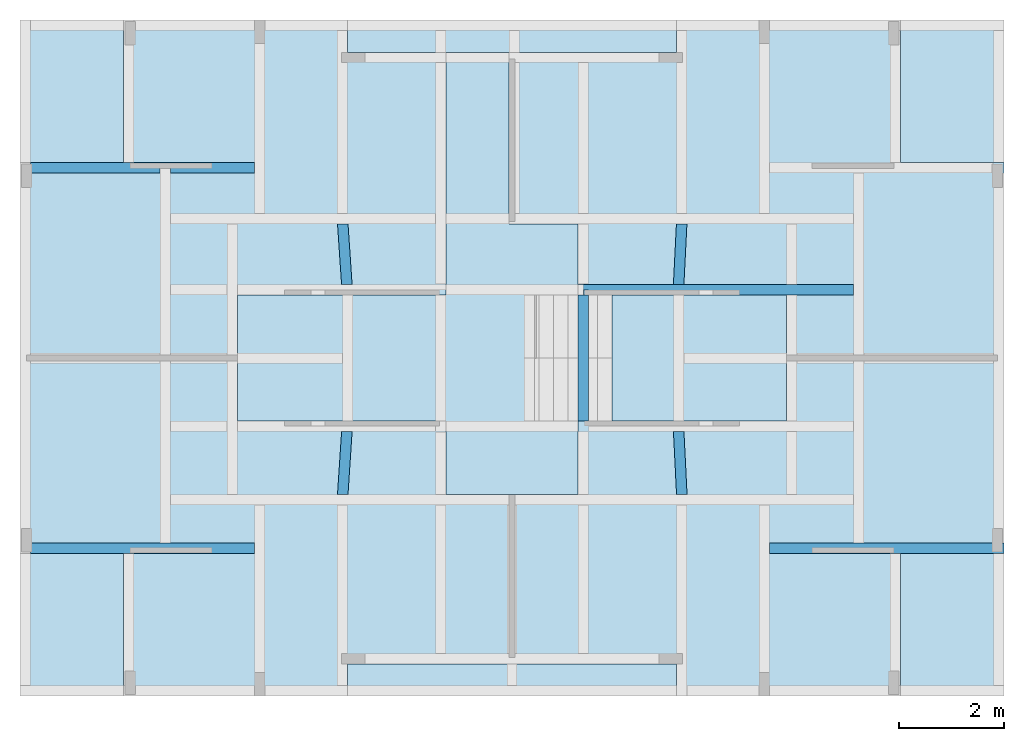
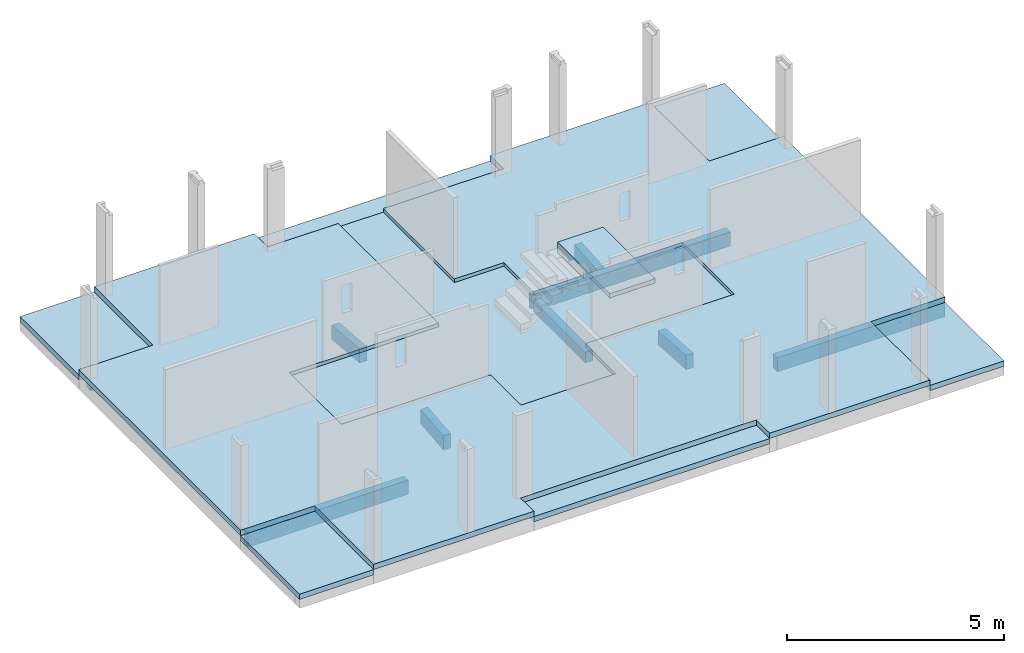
# One storey, part 4 of 7: 9 beams, 9 slabs, 1 element without a shape of its own.
"""IFC4 building model written with IfcOpenShell, lengths in metres."""

from ifc_helpers import new_model, entity, si_unit, converted_unit, derived_unit, direction, frame, frame_2d, origin, place, context, subcontext, project, spatial, indexed_curve, rectangle, outline, extrude, polygons, source, transform, mapped, material, type_object, type_shapes, element, aggregate, save


model = new_model("IFC4")

# Units and contexts
model_context = context("Model", 3, precision=1e-05, world=origin(), true_north=direction((6.123031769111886e-17, 1.0)))
body_context = subcontext(model_context, "Body", "Model", "MODEL_VIEW")
ifc_project = project(units=[si_unit("LENGTHUNIT", "METRE"), si_unit("AREAUNIT", "SQUARE_METRE"), si_unit("VOLUMEUNIT", "CUBIC_METRE"), converted_unit("PLANEANGLEUNIT", "DEGREE", entity("IfcRatioMeasure", 0.017453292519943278), si_unit("PLANEANGLEUNIT", "RADIAN"), dimensions=[0, 0, 0, 0, 0, 0, 0]), si_unit("MASSUNIT", "GRAM", prefix="KILO"), derived_unit("MASSDENSITYUNIT", [(si_unit("MASSUNIT", "GRAM", prefix="KILO"), 1), (si_unit("LENGTHUNIT", "METRE"), -3)]), derived_unit("IONCONCENTRATIONUNIT", [(si_unit("MASSUNIT", "GRAM", prefix="KILO"), 1), (si_unit("LENGTHUNIT", "METRE"), -3)]), derived_unit("MOMENTOFINERTIAUNIT", [(si_unit("LENGTHUNIT", "METRE"), 4)]), si_unit("TIMEUNIT", "SECOND"), si_unit("FREQUENCYUNIT", "HERTZ"), si_unit("THERMODYNAMICTEMPERATUREUNIT", "DEGREE_CELSIUS"), derived_unit("THERMALTRANSMITTANCEUNIT", [(si_unit("MASSUNIT", "GRAM", prefix="KILO"), 1), (si_unit("THERMODYNAMICTEMPERATUREUNIT", "KELVIN"), -1), (si_unit("TIMEUNIT", "SECOND"), -3)]), derived_unit("THERMALCONDUCTANCEUNIT", [(si_unit("MASSUNIT", "GRAM", prefix="KILO"), 1), (si_unit("THERMODYNAMICTEMPERATUREUNIT", "KELVIN"), -1), (si_unit("TIMEUNIT", "SECOND"), -3), (si_unit("LENGTHUNIT", "METRE"), 1)]), derived_unit("VOLUMETRICFLOWRATEUNIT", [(si_unit("LENGTHUNIT", "METRE"), 3), (si_unit("TIMEUNIT", "SECOND"), -1)]), derived_unit("MASSFLOWRATEUNIT", [(si_unit("MASSUNIT", "GRAM", prefix="KILO"), 1), (si_unit("TIMEUNIT", "SECOND"), -1)]), derived_unit("ROTATIONALFREQUENCYUNIT", [(si_unit("TIMEUNIT", "SECOND"), -1)]), si_unit("ELECTRICCURRENTUNIT", "AMPERE"), si_unit("ELECTRICVOLTAGEUNIT", "VOLT"), si_unit("POWERUNIT", "WATT"), si_unit("FORCEUNIT", "NEWTON", prefix="KILO"), si_unit("ILLUMINANCEUNIT", "LUX"), si_unit("LUMINOUSFLUXUNIT", "LUMEN"), si_unit("LUMINOUSINTENSITYUNIT", "CANDELA"), derived_unit("USERDEFINED", [(si_unit("MASSUNIT", "GRAM", prefix="KILO"), -1), (si_unit("LENGTHUNIT", "METRE"), -2), (si_unit("TIMEUNIT", "SECOND"), 3), (si_unit("LUMINOUSFLUXUNIT", "LUMEN"), 1)]), derived_unit("USERDEFINED", [(si_unit("MASSUNIT", "GRAM", prefix="KILO"), 1), (si_unit("TIMEUNIT", "SECOND"), -3), (si_unit("LENGTHUNIT", "METRE"), 3), (si_unit("ELECTRICCURRENTUNIT", "AMPERE"), -2)]), derived_unit("SOUNDPOWERUNIT", [(si_unit("MASSUNIT", "GRAM", prefix="KILO"), 1), (si_unit("TIMEUNIT", "SECOND"), -3), (si_unit("LENGTHUNIT", "METRE"), 2)]), derived_unit("SOUNDPRESSUREUNIT", [(si_unit("MASSUNIT", "GRAM", prefix="KILO"), 1), (si_unit("LENGTHUNIT", "METRE"), -1), (si_unit("TIMEUNIT", "SECOND"), -2)]), derived_unit("LINEARVELOCITYUNIT", [(si_unit("LENGTHUNIT", "METRE"), 1), (si_unit("TIMEUNIT", "SECOND"), -1)]), si_unit("PRESSUREUNIT", "PASCAL"), derived_unit("USERDEFINED", [(si_unit("MASSUNIT", "GRAM", prefix="KILO"), 1), (si_unit("LENGTHUNIT", "METRE"), -2), (si_unit("TIMEUNIT", "SECOND"), -2)]), derived_unit("LINEARFORCEUNIT", [(si_unit("MASSUNIT", "GRAM", prefix="KILO"), 1), (si_unit("TIMEUNIT", "SECOND"), -2)]), derived_unit("PLANARFORCEUNIT", [(si_unit("MASSUNIT", "GRAM", prefix="KILO"), 1), (si_unit("LENGTHUNIT", "METRE"), -1), (si_unit("TIMEUNIT", "SECOND"), -2)]), derived_unit("SPECIFICHEATCAPACITYUNIT", [(si_unit("THERMODYNAMICTEMPERATUREUNIT", "KELVIN"), -1), (si_unit("LENGTHUNIT", "METRE"), 2), (si_unit("TIMEUNIT", "SECOND"), -2)]), derived_unit("HEATINGVALUEUNIT", [(si_unit("LENGTHUNIT", "METRE"), 2), (si_unit("TIMEUNIT", "SECOND"), -2)]), derived_unit("VAPORPERMEABILITYUNIT", [(si_unit("LENGTHUNIT", "METRE"), -1), (si_unit("TIMEUNIT", "SECOND"), 1)]), derived_unit("DYNAMICVISCOSITYUNIT", [(si_unit("MASSUNIT", "GRAM", prefix="KILO"), 1), (si_unit("TIMEUNIT", "SECOND"), -1), (si_unit("LENGTHUNIT", "METRE"), -1)]), derived_unit("THERMALEXPANSIONCOEFFICIENTUNIT", [(si_unit("THERMODYNAMICTEMPERATUREUNIT", "KELVIN"), -1)]), derived_unit("MODULUSOFELASTICITYUNIT", [(si_unit("MASSUNIT", "GRAM", prefix="KILO"), 1), (si_unit("LENGTHUNIT", "METRE"), -1), (si_unit("TIMEUNIT", "SECOND"), -2)]), derived_unit("ISOTHERMALMOISTURECAPACITYUNIT", [(si_unit("LENGTHUNIT", "METRE"), 3), (si_unit("MASSUNIT", "GRAM", prefix="KILO"), -1)]), derived_unit("MOISTUREDIFFUSIVITYUNIT", [(si_unit("TIMEUNIT", "SECOND"), -1), (si_unit("LENGTHUNIT", "METRE"), 2)])], contexts=[model_context])

# Site, building, storey
site_placement = place(None, origin())
site = spatial("IfcSite", under=ifc_project, at=site_placement, Name="Default", CompositionType="ELEMENT")
building_placement = place(site_placement, origin())
building = spatial("IfcBuilding", under=site, at=building_placement, Name="Las nubes", CompositionType="ELEMENT")
storey_placement = place(building_placement, origin())
storey = spatial("IfcBuildingStorey", under=building, at=storey_placement, Name="CIMENTACIÓN", CompositionType="ELEMENT", Elevation=-3.522347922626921e-13)

# Beams
ifc_material_1 = material(Name="Concrete, Cast In Situ", Category="Materials")
beam_type_1 = type_object("IfcBeamType", Name="M_Concrete-Rectangular Beam:(0.20x0.55)", PredefinedType="BEAM", material=ifc_material_1)
shared_shape_1 = source(origin(), body_context, "Body", "Tessellation", [
    polygons([(1.7749999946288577, 8.662937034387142e-15, 0.3999999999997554), (1.7749999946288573, 8.662937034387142e-15, 0.25000000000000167), (8.459899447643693e-17, 1.5160139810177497e-14, 0.25000000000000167), (1.8611778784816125e-16, 1.5160139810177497e-14, 0.0), (1.7749999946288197, 8.662937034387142e-15, 0.0), (1.9749999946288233, 8.662937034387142e-15, 0.0), (4.267499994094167, 0.0, 0.0), (4.267499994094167, 0.0, 0.39999999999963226), (1.9749999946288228, 8.662937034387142e-15, 0.39999999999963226), (4.267499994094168, 0.20000000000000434, 0.0), (5.414335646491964e-16, 0.2000000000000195, 0.0), (2.4675010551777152, 0.20000000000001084, 0.0), (2.6675010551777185, 0.20000000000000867, 0.0), (4.267499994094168, 0.20000000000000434, 0.39999999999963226), (5.414335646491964e-16, 0.2000000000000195, 0.39999999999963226), (2.467501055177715, 0.20000000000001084, 0.39999999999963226), (2.667501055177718, 0.20000000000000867, 0.39999999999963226), (1.7749999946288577, 0.0002363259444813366, 0.25000000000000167), (2.537969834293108e-16, 0.0002363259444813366, 0.25000000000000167), (1.7749999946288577, 0.0002363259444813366, 0.3999999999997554), (3.383959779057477e-16, 0.0002363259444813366, 0.39999999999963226)], [[[1, 2, 3, 4, 5, 6, 7, 8, 9]], [[10, 7, 6, 5, 4, 11, 12, 13]], [[14, 10, 13, 12, 11, 15, 16, 17]], [[7, 10, 14, 8]], [[2, 18, 19, 3]], [[20, 18, 2, 1]], [[18, 20, 21, 19]], [[1, 9, 8, 14, 17, 16, 15, 21, 20]], [[4, 3, 19, 21, 15, 11]]], closed=True),
])
type_shapes(beam_type_1, [shared_shape_1])
beam_1_placement = place(storey_placement, frame((0.14250000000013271, -10.155000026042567, -0.5500000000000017)))
element("IfcBeam", 1, at=beam_1_placement, inside=storey, type_object=beam_type_1, material=ifc_material_1, Name="M_Concrete-Rectangular Beam:(0.20x0.55)", ObjectType="M_Concrete-Rectangular Beam:(0.20x0.55)", PredefinedType="BEAM", context=body_context, shape_type="MappedRepresentation", body=[
    mapped(shared_shape_1, transform((0.0, 0.0, 0.0), scale=1.0)),
])
beam_type_2 = type_object("IfcBeamType", Name="M_Concrete-Rectangular Beam:(0.20x0.55)", PredefinedType="BEAM", material=ifc_material_1)
shared_shape_2 = source(origin(), body_context, "Body", "Tessellation", [
    polygons([(2.467501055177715, 5.95576921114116e-15, 0.0), (2.4675010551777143, 5.95576921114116e-15, 0.39999999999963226), (1.8611778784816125e-16, 1.3535839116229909e-14, 0.39999999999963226), (0.0, 1.3535839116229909e-14, 0.0), (2.6675010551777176, 4.872902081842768e-15, 0.0), (2.667501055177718, 0.1850000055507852, 0.0), (2.467501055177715, 0.1850000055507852, 0.0), (3.553157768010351e-16, 0.2000000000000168, 0.0), (1.7749999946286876, 0.2000000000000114, 0.0), (1.9749999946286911, 0.20000000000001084, 0.0), (4.267499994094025, 0.20000000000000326, 0.0), (4.267499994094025, 0.0, 0.0), (4.267499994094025, 0.20000000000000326, 0.39999999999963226), (5.414335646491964e-16, 0.2000000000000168, 0.39999999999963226), (1.7749999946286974, 0.2000000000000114, 0.39999999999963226), (1.9749999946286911, 0.20000000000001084, 0.39999999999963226), (2.6675010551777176, 4.872902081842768e-15, 0.39999999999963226), (2.667501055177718, 0.1850000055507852, 0.39999999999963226), (2.467501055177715, 0.1850000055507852, 0.39999999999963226), (4.267499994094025, 0.0, 0.39999999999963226)], [[[1, 2, 3, 4]], [[5, 6, 7, 1, 4, 8, 9, 10, 11, 12]], [[13, 11, 10, 9, 8, 14, 15, 16]], [[6, 5, 17, 18]], [[1, 7, 19, 2]], [[17, 5, 12, 20]], [[7, 6, 18, 19]], [[18, 17, 20, 13, 16, 15, 14, 3, 2, 19]], [[12, 11, 13, 20]], [[4, 3, 14, 8]]], closed=True),
])
type_shapes(beam_type_2, [shared_shape_2])
beam_2_placement = place(storey_placement, frame((0.14250000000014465, -2.895000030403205, -0.5500000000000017)))
element("IfcBeam", 2, at=beam_2_placement, inside=storey, type_object=beam_type_2, material=ifc_material_1, Name="M_Concrete-Rectangular Beam:(0.20x0.55)", ObjectType="M_Concrete-Rectangular Beam:(0.20x0.55)", PredefinedType="BEAM", context=body_context, shape_type="MappedRepresentation", body=[
    mapped(shared_shape_2, transform((0.0, 0.0, 0.0), scale=1.0)),
])
beam_type_3 = type_object("IfcBeamType", Name="M_Concrete-Rectangular Beam:(0.20x0.55)", PredefinedType="BEAM", material=ifc_material_1)
shared_shape_3 = source(origin(), body_context, "Body", "Tessellation", [
    polygons([(-2.1657342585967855e-15, 0.20000000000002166, 0.0), (-2.1657342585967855e-15, 0.20000000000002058, 0.30000000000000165), (-2.1657342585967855e-15, 0.20000000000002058, 0.39999999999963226), (1.8170000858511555, 0.20000000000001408, 0.39999999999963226), (2.017249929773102, 0.20000000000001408, 0.39999999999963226), (3.975000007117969, 0.2000000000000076, 0.39999999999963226), (4.175000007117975, 0.2000000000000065, 0.39999999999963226), (5.25249894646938, 0.20000000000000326, 0.39999999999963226), (5.25249894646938, 0.20000000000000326, 0.0), (4.175000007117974, 0.2000000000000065, 0.0), (3.975000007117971, 0.2000000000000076, 0.0), (2.017249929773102, 0.20000000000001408, 0.0), (1.8170000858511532, 0.20000000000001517, 0.0), (5.252498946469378, 0.0, 0.0), (4.175000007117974, 3.2486013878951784e-15, 0.0), (3.975000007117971, 4.331468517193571e-15, 0.0), (2.0175000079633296, 1.0828671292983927e-14, 0.0), (1.8175000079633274, 1.0828671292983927e-14, 0.0), (0.20000000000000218, 1.624300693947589e-14, 0.0), (0.20000000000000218, 0.10000000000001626, 0.0), (0.09999999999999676, 0.10000000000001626, 0.0), (-2.1657342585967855e-15, 0.10000000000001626, 0.0), (5.252498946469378, 0.0, 0.39999999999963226), (4.175000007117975, 3.2486013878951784e-15, 0.39999999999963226), (3.975000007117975, 4.331468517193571e-15, 0.39999999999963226), (0.20000000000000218, 1.624300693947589e-14, 0.39999999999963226), (0.20000000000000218, 1.624300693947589e-14, 0.30000000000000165), (-2.1657342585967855e-15, 0.10000000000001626, 0.39999999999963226), (0.09999999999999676, 0.10000000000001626, 0.39999999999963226), (0.20000000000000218, 0.10000000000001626, 0.39999999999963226)], [[[1, 2, 3, 4, 5, 6, 7, 8, 9, 10, 11, 12, 13]], [[1, 13, 12, 11, 10, 9, 14, 15, 16, 17, 18, 19, 20, 21, 22]], [[23, 24, 25, 26, 27, 19, 18, 17, 16, 15, 14]], [[8, 7, 6, 5, 4, 3, 28, 29, 30, 26, 25, 24, 23]], [[2, 1, 22, 28, 3]], [[9, 8, 23, 14]], [[30, 20, 19, 27, 26]], [[20, 30, 29, 28, 22, 21]]], closed=True),
])
type_shapes(beam_type_3, [shared_shape_3])
beam_3_placement = place(storey_placement, frame((10.582499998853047, -5.225000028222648, -0.5500000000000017)))
element("IfcBeam", 3, at=beam_3_placement, inside=storey, type_object=beam_type_3, material=ifc_material_1, Name="M_Concrete-Rectangular Beam:(0.20x0.55)", ObjectType="M_Concrete-Rectangular Beam:(0.20x0.55)", PredefinedType="BEAM", context=body_context, shape_type="MappedRepresentation", body=[
    mapped(shared_shape_3, transform((0.0, 0.0, 0.0), scale=1.0)),
])
beam_type_4 = type_object("IfcBeamType", Name="M_Concrete-Rectangular Beam:(0.20x0.55)", PredefinedType="BEAM", material=ifc_material_1)
shared_shape_4 = source(origin(), body_context, "Body", "Tessellation", [
    polygons([(4.467499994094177, 0.20000000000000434, 0.39999999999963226), (4.467499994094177, 0.20000000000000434, 0.0), (4.267499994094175, 0.20000000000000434, 0.0), (1.7999989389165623, 0.20000000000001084, 0.0), (1.599998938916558, 0.200000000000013, 0.0), (2.1657342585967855e-15, 0.2000000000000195, 0.0), (2.1657342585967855e-15, 0.2000000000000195, 0.39999999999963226), (1.599998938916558, 0.20000000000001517, 0.39999999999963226), (1.7999989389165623, 0.200000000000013, 0.39999999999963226), (4.267499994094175, 0.2000000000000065, 0.39999999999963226), (4.467499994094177, 2.1657342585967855e-15, 0.0), (4.267499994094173, 2.1657342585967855e-15, 0.0), (2.492499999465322, 6.497202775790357e-15, 0.0), (2.292499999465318, 8.662937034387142e-15, 0.0), (2.1657342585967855e-15, 1.5160139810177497e-14, 0.0), (4.467499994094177, 0.0, 0.25000000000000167), (4.267499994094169, 2.1657342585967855e-15, 0.25000000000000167), (2.4924999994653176, 6.497202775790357e-15, 0.25000000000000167), (2.4924999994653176, 6.497202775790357e-15, 0.3999999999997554), (2.292499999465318, 8.662937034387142e-15, 0.39999999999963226), (2.1657342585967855e-15, 1.5160139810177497e-14, 0.39999999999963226), (4.467499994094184, 0.00023632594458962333, 0.25000000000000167), (2.4924999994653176, 0.00023632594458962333, 0.25000000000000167), (2.4924999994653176, 0.00023632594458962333, 0.3999999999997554), (4.467499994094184, 0.00023632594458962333, 0.3999999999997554)], [[[1, 2, 3, 4, 5, 6, 7, 8, 9, 10]], [[2, 11, 12, 13, 14, 15, 6, 5, 4, 3]], [[16, 17, 18, 19, 20, 21, 15, 14, 13, 12, 11]], [[22, 23, 18, 17, 16]], [[23, 24, 19, 18]], [[23, 22, 25, 24]], [[19, 24, 25, 1, 10, 9, 8, 7, 21, 20]], [[7, 6, 15, 21]], [[11, 2, 1, 25, 22, 16]]], closed=True),
])
type_shapes(beam_type_4, [shared_shape_4])
beam_4_placement = place(storey_placement, frame((14.23500000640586, -10.155000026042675, -0.5500000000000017)))
element("IfcBeam", 4, at=beam_4_placement, inside=storey, type_object=beam_type_4, material=ifc_material_1, Name="M_Concrete-Rectangular Beam:(0.20x0.55)", ObjectType="M_Concrete-Rectangular Beam:(0.20x0.55)", PredefinedType="BEAM", context=body_context, shape_type="MappedRepresentation", body=[
    mapped(shared_shape_4, transform((0.0, 0.0, 0.0), scale=1.0)),
])
beam_type_5 = type_object("IfcBeamType", Name="M_Concrete-Rectangular Beam:(0.20x0.55)", PredefinedType="BEAM", material=ifc_material_1)
shared_shape_5 = source(origin(), body_context, "Body", "Tessellation", [
    polygons([(0.20024984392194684, 1.0828671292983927e-15, 1.6919798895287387e-17), (0.20024984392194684, 0.0, -0.39999999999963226), (0.2581248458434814, 1.1575000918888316, -0.39999999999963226), (0.2581248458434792, 1.1575000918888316, 3.383959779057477e-17), (-2.1657342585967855e-15, 1.0828671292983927e-15, -0.39999999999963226), (0.057875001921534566, 1.1575000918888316, -0.39999999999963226), (-2.1657342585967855e-15, 1.0828671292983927e-15, 3.383959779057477e-17), (0.0578750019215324, 1.1575000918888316, 3.383959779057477e-17)], [[[1, 2, 3, 4]], [[2, 5, 6, 3]], [[5, 7, 8, 6]], [[5, 2, 1, 7]], [[7, 1, 4, 8]], [[4, 3, 6, 8]]], closed=True),
])
type_shapes(beam_type_5, [shared_shape_5])
beam_5_placement = place(storey_placement, frame((12.399500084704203, -5.025000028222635, -0.1500000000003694)))
element("IfcBeam", 5, at=beam_5_placement, inside=storey, type_object=beam_type_5, material=ifc_material_1, Name="M_Concrete-Rectangular Beam:(0.20x0.55)", ObjectType="M_Concrete-Rectangular Beam:(0.20x0.55)", PredefinedType="BEAM", context=body_context, shape_type="MappedRepresentation", body=[
    mapped(shared_shape_5, transform((0.0, 0.0, 0.0), scale=1.0)),
])
beam_type_6 = type_object("IfcBeamType", Name="M_Concrete-Rectangular Beam:(0.20x0.55)", PredefinedType="BEAM", material=ifc_material_1)
shared_shape_6 = source(origin(), body_context, "Body", "Tessellation", [
    polygons([(0.2595324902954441, 6.497202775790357e-15, 0.39999999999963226), (0.2595324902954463, 3.2486013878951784e-15, 0.0), (0.20024395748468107, 1.199999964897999, 0.0), (0.20024395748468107, 1.1999999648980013, 0.39999999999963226), (0.0592885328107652, 3.2486013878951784e-15, 0.0), (2.1657342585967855e-15, 1.1999999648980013, 0.0), (0.0592885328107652, 7.580069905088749e-15, 0.39999999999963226), (2.1657342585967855e-15, 1.1999999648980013, 0.39999999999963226)], [[[1, 2, 3, 4]], [[2, 5, 6, 3]], [[5, 7, 8, 6]], [[5, 2, 1, 7]], [[7, 1, 4, 8]], [[4, 3, 6, 8]]], closed=True),
])
type_shapes(beam_type_6, [shared_shape_6])
beam_6_placement = place(storey_placement, frame((12.400248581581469, -9.024999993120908, -0.5500000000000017)))
element("IfcBeam", 6, at=beam_6_placement, inside=storey, type_object=beam_type_6, material=ifc_material_1, Name="M_Concrete-Rectangular Beam:(0.20x0.55)", ObjectType="M_Concrete-Rectangular Beam:(0.20x0.55)", PredefinedType="BEAM", context=body_context, shape_type="MappedRepresentation", body=[
    mapped(shared_shape_6, transform((0.0, 0.0, 0.0), scale=1.0)),
])
beam_type_7 = type_object("IfcBeamType", Name="M_Concrete-Rectangular Beam:(0.20x0.55)", PredefinedType="BEAM", material=ifc_material_1)
shared_shape_7 = source(origin(), body_context, "Body", "Tessellation", [
    polygons([(1.0828671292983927e-15, 1.1575000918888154, 0.39999999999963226), (1.0828671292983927e-15, 1.1575000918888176, 0.0), (0.07803371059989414, 1.0828671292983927e-15, 0.0), (0.07803371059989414, 1.0828671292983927e-15, 0.39999999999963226), (0.200453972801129, 1.1575000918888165, 0.0), (0.278487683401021, 1.0828671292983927e-15, 0.0), (0.200453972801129, 1.1575000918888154, 0.39999999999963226), (0.278487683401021, 1.0828671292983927e-15, 0.39999999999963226)], [[[1, 2, 3, 4]], [[2, 5, 6, 3]], [[5, 7, 8, 6]], [[5, 2, 1, 7]], [[7, 1, 4, 8]], [[4, 3, 6, 8]]], closed=True),
])
type_shapes(beam_type_7, [shared_shape_7])
beam_7_placement = place(storey_placement, frame((5.995529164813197, -5.025000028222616, -0.5500000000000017)))
element("IfcBeam", 7, at=beam_7_placement, inside=storey, type_object=beam_type_7, material=ifc_material_1, Name="M_Concrete-Rectangular Beam:(0.20x0.55)", ObjectType="M_Concrete-Rectangular Beam:(0.20x0.55)", PredefinedType="BEAM", context=body_context, shape_type="MappedRepresentation", body=[
    mapped(shared_shape_7, transform((0.0, 0.0, 0.0), scale=1.0)),
])
beam_type_8 = type_object("IfcBeamType", Name="M_Concrete-Rectangular Beam:(0.20x0.55)", PredefinedType="BEAM", material=ifc_material_1)
shared_shape_8 = source(origin(), body_context, "Body", "Tessellation", [
    polygons([(0.07875000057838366, 1.1999999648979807, 6.767919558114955e-17), (1.0828671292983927e-15, 0.0, 0.0), (1.0828671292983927e-15, 0.0, 0.39999999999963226), (0.07875000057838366, 1.1999999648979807, 0.39999999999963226), (0.20043020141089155, 0.0, 0.0), (0.2791802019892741, 1.1999999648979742, 0.0), (0.279180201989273, 1.1999999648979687, 0.39999999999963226), (0.20043020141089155, 0.0, 0.39999999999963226)], [[[1, 2, 3, 4]], [[5, 2, 1, 6]], [[5, 6, 7, 8]], [[2, 5, 8, 3]], [[6, 1, 4, 7]], [[4, 3, 8, 7]]], closed=True),
])
type_shapes(beam_type_8, [shared_shape_8])
beam_8_placement = place(storey_placement, frame((5.995194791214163, -9.024999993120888, -0.5500000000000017)))
element("IfcBeam", 8, at=beam_8_placement, inside=storey, type_object=beam_type_8, material=ifc_material_1, Name="M_Concrete-Rectangular Beam:(0.20x0.55)", ObjectType="M_Concrete-Rectangular Beam:(0.20x0.55)", PredefinedType="BEAM", context=body_context, shape_type="MappedRepresentation", body=[
    mapped(shared_shape_8, transform((0.0, 0.0, 0.0), scale=1.0)),
])
beam_type_9 = type_object("IfcBeamType", Name="M_Concrete-Rectangular Beam:(0.20x0.45)", PredefinedType="BEAM", material=ifc_material_1)
shared_shape_9 = source(origin(), body_context, "Body", "Tessellation", [
    polygons([(0.2000000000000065, 2.4000000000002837, 0.30000000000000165), (0.20000000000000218, 1.0828671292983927e-15, 0.30000000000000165), (0.2, 1.0828671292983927e-15, 0.0), (0.20000000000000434, 2.4000000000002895, 0.0), (0.20000000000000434, 2.500000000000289, 0.0), (0.2000000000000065, 2.500000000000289, 0.39999999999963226), (0.2000000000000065, 2.4000000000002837, 0.39999999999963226), (2.1657342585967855e-15, 2.4000000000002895, 0.0), (0.10000000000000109, 2.4000000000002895, 0.0), (0.10000000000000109, 2.500000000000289, 0.0), (-2.1657342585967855e-15, 3.2486013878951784e-15, 0.0), (2.1657342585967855e-15, 2.4000000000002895, 0.30000000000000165), (-2.1657342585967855e-15, 3.2486013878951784e-15, 0.30000000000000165), (0.10000000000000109, 2.500000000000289, 0.39999999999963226), (0.10000000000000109, 2.400000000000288, 0.30000000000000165), (0.10000000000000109, 2.4000000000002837, 0.39999999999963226)], [[[1, 2, 3, 4, 5, 6, 7]], [[8, 9, 10, 5, 4, 3, 11]], [[12, 8, 11, 13]], [[5, 10, 14, 6]], [[9, 8, 12, 15]], [[2, 1, 15, 12, 13]], [[15, 1, 7, 16]], [[7, 6, 14, 16]], [[3, 2, 13, 11]], [[10, 9, 15, 16, 14]]], closed=True),
])
type_shapes(beam_type_9, [shared_shape_9])
beam_9_placement = place(storey_placement, frame((10.582499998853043, -7.62500002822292, -0.5500000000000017)))
element("IfcBeam", 9, at=beam_9_placement, inside=storey, type_object=beam_type_9, material=ifc_material_1, Name="M_Concrete-Rectangular Beam:(0.20x0.45)", ObjectType="M_Concrete-Rectangular Beam:(0.20x0.45)", PredefinedType="BEAM", context=body_context, shape_type="MappedRepresentation", body=[
    mapped(shared_shape_9, transform((0.0, 0.0, 0.0), scale=1.0)),
])

# Slabs
ifc_material_2 = material(Name="Concrete - Cast-in-Place Concrete - 28 MPa SLAB", Category="Materials")
slab_type_1 = type_object("IfcSlabType", Name="Floor:PLACA ESTRUCTURAL 0.15", PredefinedType="FLOOR", material=ifc_material_2)
slab_1_placement = place(storey_placement, origin())
element("IfcSlab", 10, at=slab_1_placement, inside=storey, type_object=slab_type_1, material=ifc_material_2, Name="Floor:PLACA ESTRUCTURAL 0.15", ObjectType="Floor:PLACA ESTRUCTURAL 0.15", PredefinedType="FLOOR", context=body_context, shape_type="SweptSolid", body=[
    extrude(outline(indexed_curve([(-2.0267857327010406, -5.226428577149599), (0.3732142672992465, -5.226428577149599), (0.37321426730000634, -1.2514285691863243), (5.003214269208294, -1.2514285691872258), (5.003214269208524, -0.051428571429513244), (1.730714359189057, -0.05142857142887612), (1.730714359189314, 1.2685714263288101), (0.37321426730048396, 1.2685714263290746), (0.3732142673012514, 5.243571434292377), (-2.026785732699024, 5.243571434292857), (-2.026785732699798, 1.2685714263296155), (-3.426785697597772, 1.268571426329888), (-3.4267856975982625, -1.2514285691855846), (-2.0267857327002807, -1.251428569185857), (-2.0267857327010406, -5.226428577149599)], self_intersect=False)), frame((9.313928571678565, -5.598214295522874, -0.09999999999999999), z_axis=(0.0, 0.0, -1.0), x_axis=(0.0, 1.0, 0.0)), (0.0, 0.0, 1.0), 0.14999999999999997),
])
slab_2_placement = place(storey_placement, frame((-0.05749999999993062, -12.87000003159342, -0.3)))
element("IfcSlab", 11, at=slab_2_placement, inside=storey, type_object=slab_type_1, material=ifc_material_2, Name="Floor:PLACA ESTRUCTURAL 0.15", ObjectType="Floor:PLACA ESTRUCTURAL 0.15", PredefinedType="FLOOR", context=body_context, shape_type="SweptSolid", body=[
    extrude(rectangle(XDim=1.974999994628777, YDim=2.7150000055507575, at=frame_2d((8.392500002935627, 5.087500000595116), x_axis=(1.0, 0.0))), frame((9.380000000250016, 6.445000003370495, 0.14999999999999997), z_axis=(0.0, 0.0, -1.0), x_axis=(-1.0, 0.0, 0.0)), (0.0, 0.0, 1.0), 0.14999999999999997),
])
slab_3_placement = place(storey_placement, frame((-0.05749999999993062, -12.87000003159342, -0.3)))
element("IfcSlab", 12, at=slab_3_placement, inside=storey, type_object=slab_type_1, Name="Floor:PLACA ESTRUCTURAL 0.15:2", ObjectType="Floor:PLACA ESTRUCTURAL 0.15", PredefinedType="FLOOR", context=body_context, shape_type="SweptSolid", body=[
    extrude(rectangle(XDim=2.7150000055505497, YDim=1.9749999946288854, at=frame_2d((-8.392500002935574, 5.08750000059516), x_axis=(0.0, -1.0))), frame((9.380000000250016, 6.445000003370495, 0.14999999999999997), z_axis=(0.0, 0.0, -1.0), x_axis=(-1.0, 0.0, 0.0)), (0.0, 0.0, 1.0), 0.14999999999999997),
])
slab_4_placement = place(storey_placement, frame((-0.05749999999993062, -12.87000003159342, -0.3)))
element("IfcSlab", 13, at=slab_4_placement, inside=storey, type_object=slab_type_1, Name="Floor:PLACA ESTRUCTURAL 0.15:3", ObjectType="Floor:PLACA ESTRUCTURAL 0.15", PredefinedType="FLOOR", context=body_context, shape_type="SweptSolid", body=[
    extrude(rectangle(XDim=1.974999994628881, YDim=2.7152363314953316, at=frame_2d((-8.392500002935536, -5.0873818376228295), x_axis=(1.0, 0.0))), frame((9.380000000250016, 6.445000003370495, 0.14999999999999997), z_axis=(0.0, 0.0, -1.0), x_axis=(-1.0, 0.0, 0.0)), (0.0, 0.0, 1.0), 0.14999999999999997),
])
slab_5_placement = place(storey_placement, frame((-0.05749999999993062, -12.87000003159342, -0.3)))
element("IfcSlab", 14, at=slab_5_placement, inside=storey, type_object=slab_type_1, Name="Floor:PLACA ESTRUCTURAL 0.15:4", ObjectType="Floor:PLACA ESTRUCTURAL 0.15", PredefinedType="FLOOR", context=body_context, shape_type="SweptSolid", body=[
    extrude(rectangle(XDim=6.2800000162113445, YDim=0.6150000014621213, at=frame_2d((0.0, -6.137500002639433), x_axis=(1.0, 0.0))), frame((9.380000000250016, 6.445000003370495, 0.14999999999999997), z_axis=(0.0, 0.0, -1.0), x_axis=(-1.0, 0.0, 0.0)), (0.0, 0.0, 1.0), 0.14999999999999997),
])
slab_6_placement = place(storey_placement, frame((-0.05749999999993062, -12.87000003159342, -0.3)))
element("IfcSlab", 15, at=slab_6_placement, inside=storey, type_object=slab_type_1, Name="Floor:PLACA ESTRUCTURAL 0.15:5", ObjectType="Floor:PLACA ESTRUCTURAL 0.15", PredefinedType="FLOOR", context=body_context, shape_type="SweptSolid", body=[
    extrude(rectangle(XDim=0.6150000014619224, YDim=6.280000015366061, at=frame_2d((0.0, 6.137500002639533), x_axis=(0.0, 1.0))), frame((9.380000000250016, 6.445000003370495, 0.14999999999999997), z_axis=(0.0, 0.0, -1.0), x_axis=(-1.0, 0.0, 0.0)), (0.0, 0.0, 1.0), 0.14999999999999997),
])
slab_7_placement = place(storey_placement, frame((-0.05749999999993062, -12.87000003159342, -0.3)))
element("IfcSlab", 16, at=slab_7_placement, inside=storey, type_object=slab_type_1, Name="Floor:PLACA ESTRUCTURAL 0.15:6", ObjectType="Floor:PLACA ESTRUCTURAL 0.15", PredefinedType="FLOOR", context=body_context, shape_type="SweptSolid", body=[
    extrude(rectangle(XDim=2.7152363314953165, YDim=1.9749999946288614, at=frame_2d((8.392500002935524, -5.0873818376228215), x_axis=(0.0, -1.0))), frame((9.380000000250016, 6.445000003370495, 0.14999999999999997), z_axis=(0.0, 0.0, -1.0), x_axis=(-1.0, 0.0, 0.0)), (0.0, 0.0, 1.0), 0.14999999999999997),
])
slab_8_placement = place(storey_placement, origin())
element("IfcSlab", 17, at=slab_8_placement, inside=storey, type_object=slab_type_1, material=ifc_material_2, Name="Floor:PLACA ESTRUCTURAL 0.15", ObjectType="Floor:PLACA ESTRUCTURAL 0.15", PredefinedType="FLOOR", context=body_context, shape_type="SweptSolid", body=[
    extrude(outline(indexed_curve([(-4.070441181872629, -9.376470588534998), (3.3895588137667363, -9.376470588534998), (3.389558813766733, -7.401470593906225), (6.104558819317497, -7.401470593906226), (6.104558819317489, -3.1364705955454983), (5.489558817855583, -3.1364705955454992), (5.4895588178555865, -1.2564705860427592), (0.8595588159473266, -1.2564705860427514), (0.8595588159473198, -5.231470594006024), (-1.5404411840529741, -5.231470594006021), (-1.540441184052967, -1.256470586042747), (-2.940441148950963, -1.2564705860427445), (-2.9404411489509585, 1.2635294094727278), (-1.5404411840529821, 1.2635294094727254), (-1.5404411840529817, 5.238529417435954), (0.8595588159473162, 5.238529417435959), (0.8595588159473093, 1.2635294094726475), (2.217058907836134, 1.2635294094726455), (2.217058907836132, -0.05647058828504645), (5.489558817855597, -0.05647058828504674), (5.489558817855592, 3.143529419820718), (6.104558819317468, 3.1435294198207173), (6.104558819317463, 7.408529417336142), (3.3895588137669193, 7.408529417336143), (3.389558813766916, 9.383529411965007), (-4.07044118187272, 9.383529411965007), (-4.070441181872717, 7.408529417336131), (-6.7854411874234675, 7.408529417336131), (-6.785441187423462, 3.143529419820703), (-6.170441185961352, 3.143529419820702), (-6.1704411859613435, -3.1364705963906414), (-6.785441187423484, -3.1364705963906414), (-6.785441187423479, -7.401470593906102), (-4.070441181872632, -7.401470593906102), (-4.070441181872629, -9.376470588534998)], self_intersect=False)), frame((9.318970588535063, -6.084558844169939, 0.0), z_axis=(0.0, 0.0, -1.0), x_axis=(0.0, 1.0, 0.0)), (0.0, 0.0, 1.0), 0.14999999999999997),
])

# Stair, slab
stair_type = type_object("IfcStairType", Name="Cast-In-Place Stair:B1080_Escalera Monolitica en Concreto", PredefinedType="HALF_TURN_STAIR")
stair_placement = place(storey_placement, origin())
stair = element("IfcStair", 18, at=stair_placement, inside=storey, type_object=stair_type, Name="Cast-In-Place Stair:Stair", ObjectType="Cast-In-Place Stair:B1080_Escalera Monolitica en Concreto", PredefinedType="HALF_TURN_STAIR")
ifc_material_3 = material(Name="Concrete, Cast-in-Place gray", Category="Materials")
slab_type_2 = type_object("IfcSlabType", Name="Monolithic Landing:120mm Thickness", PredefinedType="LANDING")
slab_9_placement = place(stair_placement, frame((11.23250000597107, -7.625000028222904, 0.0)))
slab_9 = element("IfcSlab", 19, at=slab_9_placement, type_object=slab_type_2, material=ifc_material_3, Name="Cast-In-Place Stair:Stair:523479 Landing 1", ObjectType="Monolithic Landing:120mm Thickness", PredefinedType="LANDING", context=body_context, shape_type="Tessellation", body=[
    polygons([(0.0, 2.4000000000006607, 1.1750000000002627), (0.0, 1.2000000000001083, 1.1750000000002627), (0.0, 1.199000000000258, 1.1750000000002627), (0.0, 0.0, 1.1750000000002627), (1.2100000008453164, 0.0, 1.1750000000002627), (1.2100000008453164, 2.4000000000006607, 1.1750000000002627), (0.3132138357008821, 2.4000000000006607, 1.1750000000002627), (1.2100000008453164, 0.0, 1.0550000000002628), (1.2100000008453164, 2.4000000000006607, 1.0550000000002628), (0.0, 2.4000000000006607, 0.8672315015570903), (0.0, 2.4000000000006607, 1.0071428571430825), (0.3132138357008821, 2.4000000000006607, 1.0550000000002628), (0.0, 0.0, 1.0550000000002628), (0.3132138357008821, 1.2000000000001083, 1.0550000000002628), (0.0, 1.199000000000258, 1.0550000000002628), (0.0, 1.2000000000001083, 1.0550000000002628), (0.0, 1.2000000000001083, 0.8672315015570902), (0.0, 1.2000000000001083, 1.0071428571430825)], [[[1, 2, 3, 4, 5, 6, 7]], [[6, 5, 8, 9]], [[10, 11, 1, 7, 6, 9, 12]], [[5, 4, 13, 8]], [[14, 12, 9, 8, 13, 15, 16]], [[2, 1, 11, 10, 17, 18, 16]], [[3, 2, 16, 15]], [[12, 14, 17, 10]], [[14, 16, 18, 17]], [[4, 3, 15, 13]]], closed=True),
])
aggregate(stair, [slab_9])

save(model, "model.ifc")
